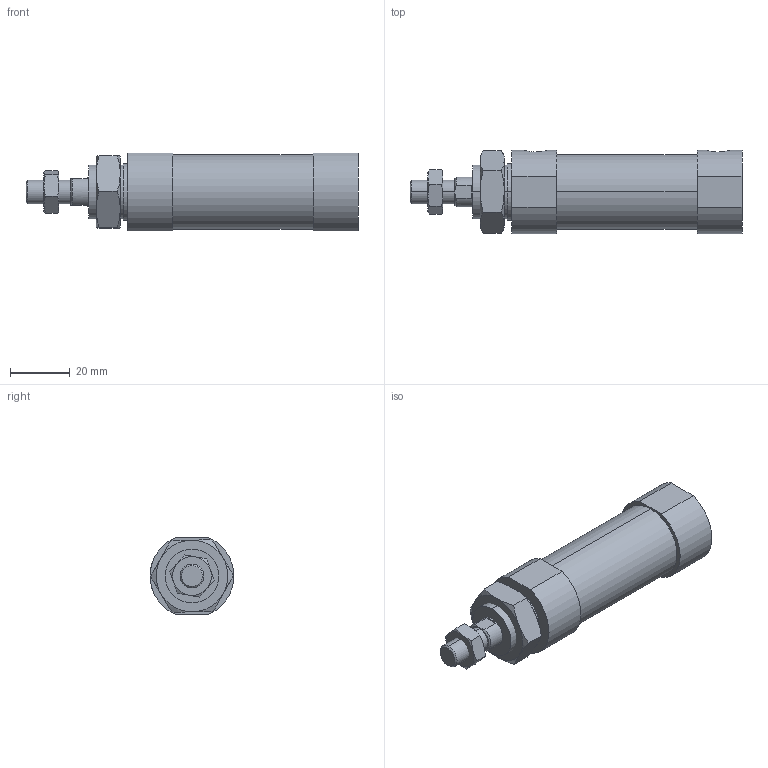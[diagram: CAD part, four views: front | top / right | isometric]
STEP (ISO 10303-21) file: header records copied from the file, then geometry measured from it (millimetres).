
FILE_DESCRIPTION (( 'STEP AP203' ), '1' );
FILE_NAME ('JGND2-20-15-N.STEP', '2016-08-04T02:20:18', ( '' ), ( '' ), 'SwSTEP 2.0', 'SolidWorks 2014', '' );
FILE_SCHEMA (( 'CONFIG_CONTROL_DESIGN' ));
Length unit declared in the file: millimetre
Products named in the file (4): JGND2-20-15-N; J#2-20-15(P)
Assembly tree (3 placements, depth 2):
  JGND2-20-15-N
    J#2-20-15(P)
    (unnamed)
    (unnamed)
Bounding box: 111 x 28 x 26 mm (x, y, z)
Volume: 46955.1 mm3; surface area: 11897 mm2
Topology: 3 solids, 3 shells, 84 faces, 182 edges, 112 vertices
Faces by surface type: plane 34, torus 24, cylinder 22, cone 4
Entity records: 3040 total; most frequent: CARTESIAN_POINT 840, DIRECTION 378, ORIENTED_EDGE 364, EDGE_CURVE 182, AXIS2_PLACEMENT_3D 162, VERTEX_POINT 112, EDGE_LOOP 96, FACE_OUTER_BOUND 84
